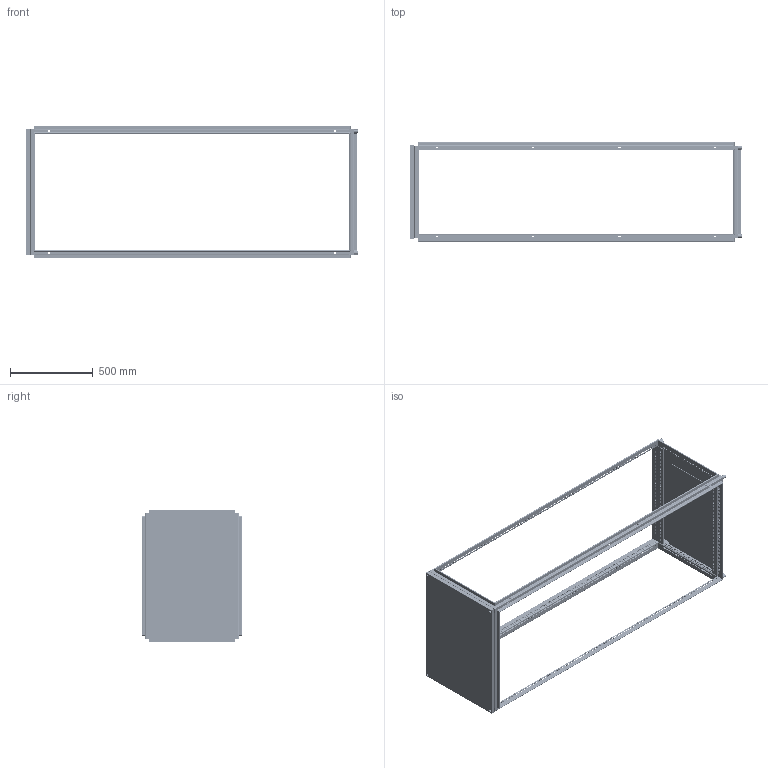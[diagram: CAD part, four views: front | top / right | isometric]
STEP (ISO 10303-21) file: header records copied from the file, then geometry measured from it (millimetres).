
FILE_DESCRIPTION (( 'STEP AP214' ), '1' );
FILE_NAME ('Êàðêàñ2000x600x800(259567).STEP', '2018-07-05T12:57:43', ( '' ), ( '' ), 'SwSTEP 2.0', 'SolidWorks 2018', '' );
FILE_SCHEMA (( 'AUTOMOTIVE_DESIGN' ));
Length unit declared in the file: millimetre
Products named in the file (12): Êðûøà600x800; äíî áîêîâèíà800; 橡铘桦铌钼铋2000; ﾄ濵600x800; 瓔鍐麃鍧鍷; ÄíîÊðûøêà600x800; Ïðîôèëü600; 忺謤僔600x800x2000; Ïðîôèëü800; 瓔鍼賙鍷; 忺謤僔2000x600x800(259567); 赶鎀鍧
Assembly tree (28 placements, depth 3):
  忺謤僔2000x600x800(259567)
    忺謤僔600x800x2000
      橡铘桦铌钼铋2000  x4
      Ïðîôèëü600  x4
      赶鎀鍧  x8
      Ïðîôèëü800  x4
    ﾄ濵600x800
      äíî áîêîâèíà800  x2
      瓔鍼賙鍷
      瓔鍐麃鍧鍷
      ÄíîÊðûøêà600x800
    Êðûøà600x800
Bounding box: 2000.5 x 600 x 800 mm (x, y, z)
Volume: 5282834.7 mm3; surface area: 7073789.7 mm2
Topology: 26 solids, 26 shells, 9118 faces, 25688 edges, 16654 vertices
Faces by surface type: plane 6076, cylinder 3010, sphere 24, bspline 8
Entity records: 79151 total; most frequent: CARTESIAN_POINT 13796, ORIENTED_EDGE 13314, DIRECTION 13007, EDGE_CURVE 6657, VECTOR 5079, LINE 5079, VERTEX_POINT 4305, AXIS2_PLACEMENT_3D 3964
